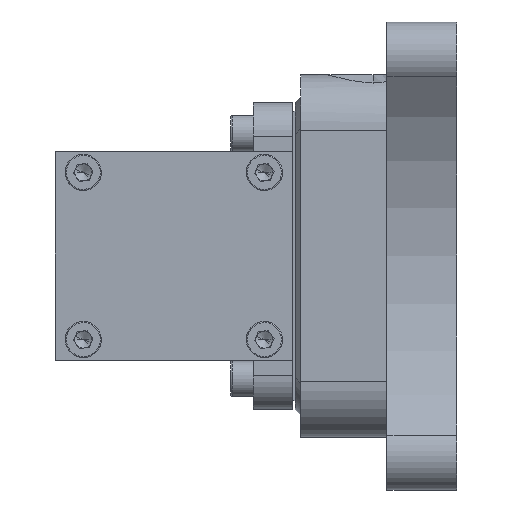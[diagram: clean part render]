
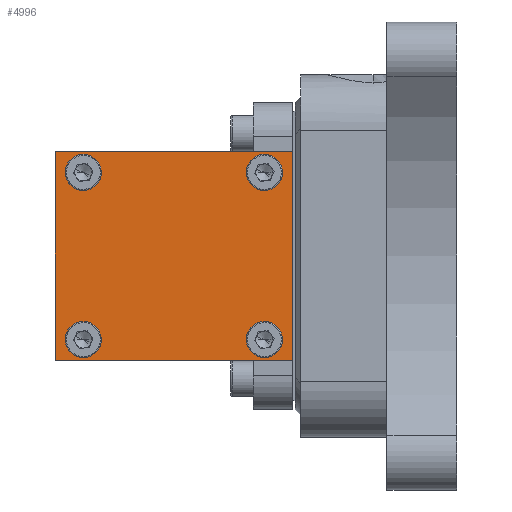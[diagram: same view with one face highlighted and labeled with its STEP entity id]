
A CAD part, left-side view. The second image highlights one B-rep face of the part: STEP entity #4996.
In plain terms, the highlighted planar face has unit normal (-1, 0, 0) as drawn and (1, 0, 0) by its records, which use the part's own axes.
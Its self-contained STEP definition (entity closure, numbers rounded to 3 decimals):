
#169 = EDGE_CURVE ( 'NONE', #5704, #2909, #1802, .T. ) ;
#173 = CARTESIAN_POINT ( 'NONE',  ( 93., 1., -37.5 ) ) ;
#202 = VECTOR ( 'NONE', #6814, 1000. ) ;
#245 = CARTESIAN_POINT ( 'NONE',  ( 93., 76., 34. ) ) ;
#295 = CARTESIAN_POINT ( 'NONE',  ( 93., 86., 37.5 ) ) ;
#340 = AXIS2_PLACEMENT_3D ( 'NONE', #7745, #3066, #6210 ) ;
#385 = VERTEX_POINT ( 'NONE', #245 ) ;
#421 = VERTEX_POINT ( 'NONE', #173 ) ;
#435 = DIRECTION ( 'NONE',  ( 0., 0., -1. ) ) ;
#661 = DIRECTION ( 'NONE',  ( 0., 0., -1. ) ) ;
#725 = AXIS2_PLACEMENT_3D ( 'NONE', #3552, #1104, #8090 ) ;
#906 = DIRECTION ( 'NONE',  ( 1., 0., 0. ) ) ;
#1005 = EDGE_CURVE ( 'NONE', #2152, #6779, #5173, .T. ) ;
#1006 = VERTEX_POINT ( 'NONE', #9913 ) ;
#1030 = ORIENTED_EDGE ( 'NONE', *, *, #4132, .F. ) ;
#1050 = EDGE_LOOP ( 'NONE', ( #9921, #2518, #8245, #6783 ) ) ;
#1104 = DIRECTION ( 'NONE',  ( -1., 0., 0. ) ) ;
#1110 = FACE_BOUND ( 'NONE', #4232, .T. ) ;
#1121 = CARTESIAN_POINT ( 'NONE',  ( 93., 11., 26. ) ) ;
#1181 = ORIENTED_EDGE ( 'NONE', *, *, #10075, .F. ) ;
#1274 = CIRCLE ( 'NONE', #3789, 4. ) ;
#1344 = VERTEX_POINT ( 'NONE', #7257 ) ;
#1491 = VECTOR ( 'NONE', #5074, 1000. ) ;
#1572 = CARTESIAN_POINT ( 'NONE',  ( 93., 11., 34. ) ) ;
#1802 = CIRCLE ( 'NONE', #2686, 4. ) ;
#1851 = DIRECTION ( 'NONE',  ( 0., 0., -1. ) ) ;
#1942 = EDGE_CURVE ( 'NONE', #4474, #421, #3215, .T. ) ;
#2069 = ORIENTED_EDGE ( 'NONE', *, *, #3218, .F. ) ;
#2087 = DIRECTION ( 'NONE',  ( 0., 0., -1. ) ) ;
#2152 = VERTEX_POINT ( 'NONE', #9448 ) ;
#2173 = DIRECTION ( 'NONE',  ( 0., 0., -1. ) ) ;
#2518 = ORIENTED_EDGE ( 'NONE', *, *, #1005, .F. ) ;
#2519 = DIRECTION ( 'NONE',  ( 0., 0., -1. ) ) ;
#2686 = AXIS2_PLACEMENT_3D ( 'NONE', #6159, #8412, #10085 ) ;
#2848 = ORIENTED_EDGE ( 'NONE', *, *, #6568, .F. ) ;
#2909 = VERTEX_POINT ( 'NONE', #1572 ) ;
#2940 = LINE ( 'NONE', #5424, #7946 ) ;
#2981 = EDGE_LOOP ( 'NONE', ( #8383, #4905 ) ) ;
#3066 = DIRECTION ( 'NONE',  ( 1., 0., 0. ) ) ;
#3068 = LINE ( 'NONE', #295, #1491 ) ;
#3159 = CARTESIAN_POINT ( 'NONE',  ( 93., 76., 26. ) ) ;
#3215 = LINE ( 'NONE', #9089, #8465 ) ;
#3218 = EDGE_CURVE ( 'NONE', #9020, #1006, #4913, .T. ) ;
#3279 = CIRCLE ( 'NONE', #8241, 4. ) ;
#3310 = CARTESIAN_POINT ( 'NONE',  ( 93., 11., -26. ) ) ;
#3344 = ORIENTED_EDGE ( 'NONE', *, *, #5296, .F. ) ;
#3427 = FACE_BOUND ( 'NONE', #7618, .T. ) ;
#3470 = EDGE_CURVE ( 'NONE', #7685, #385, #4420, .T. ) ;
#3484 = PLANE ( 'NONE',  #725 ) ;
#3552 = CARTESIAN_POINT ( 'NONE',  ( 93., 86., 37.5 ) ) ;
#3772 = AXIS2_PLACEMENT_3D ( 'NONE', #4218, #4965, #435 ) ;
#3789 = AXIS2_PLACEMENT_3D ( 'NONE', #8718, #906, #6529 ) ;
#3992 = EDGE_CURVE ( 'NONE', #4474, #2152, #3068, .T. ) ;
#3995 = CARTESIAN_POINT ( 'NONE',  ( 93., 76., -30. ) ) ;
#4028 = DIRECTION ( 'NONE',  ( 1., 0., 0. ) ) ;
#4116 = CARTESIAN_POINT ( 'NONE',  ( 93., 76., -30. ) ) ;
#4132 = EDGE_CURVE ( 'NONE', #7266, #1344, #9779, .T. ) ;
#4218 = CARTESIAN_POINT ( 'NONE',  ( 93., 11., -30. ) ) ;
#4225 = CARTESIAN_POINT ( 'NONE',  ( 93., 76., -26. ) ) ;
#4232 = EDGE_LOOP ( 'NONE', ( #3344, #2069 ) ) ;
#4420 = CIRCLE ( 'NONE', #9907, 4. ) ;
#4474 = VERTEX_POINT ( 'NONE', #4574 ) ;
#4560 = CIRCLE ( 'NONE', #4827, 4. ) ;
#4574 = CARTESIAN_POINT ( 'NONE',  ( 93., 1., 37.5 ) ) ;
#4714 = EDGE_CURVE ( 'NONE', #421, #6779, #2940, .T. ) ;
#4748 = FACE_BOUND ( 'NONE', #2981, .T. ) ;
#4827 = AXIS2_PLACEMENT_3D ( 'NONE', #5003, #6584, #2087 ) ;
#4905 = ORIENTED_EDGE ( 'NONE', *, *, #10057, .F. ) ;
#4913 = CIRCLE ( 'NONE', #3772, 4. ) ;
#4965 = DIRECTION ( 'NONE',  ( 1., 0., 0. ) ) ;
#4971 = DIRECTION ( 'NONE',  ( 1., 0., 0. ) ) ;
#4996 = ADVANCED_FACE ( 'NONE', ( #1110, #4748, #5118, #3427, #5370 ), #3484, .F. ) ;
#5003 = CARTESIAN_POINT ( 'NONE',  ( 93., 76., 30. ) ) ;
#5074 = DIRECTION ( 'NONE',  ( 0., 1., 0. ) ) ;
#5118 = FACE_BOUND ( 'NONE', #6153, .T. ) ;
#5164 = CARTESIAN_POINT ( 'NONE',  ( 93., 86., -37.5 ) ) ;
#5173 = LINE ( 'NONE', #10053, #202 ) ;
#5244 = DIRECTION ( 'NONE',  ( 1., 0., 0. ) ) ;
#5296 = EDGE_CURVE ( 'NONE', #1006, #9020, #9282, .T. ) ;
#5370 = FACE_OUTER_BOUND ( 'NONE', #1050, .T. ) ;
#5424 = CARTESIAN_POINT ( 'NONE',  ( 93., 86., -37.5 ) ) ;
#5604 = AXIS2_PLACEMENT_3D ( 'NONE', #3995, #4028, #2519 ) ;
#5704 = VERTEX_POINT ( 'NONE', #1121 ) ;
#6153 = EDGE_LOOP ( 'NONE', ( #2848, #1030 ) ) ;
#6159 = CARTESIAN_POINT ( 'NONE',  ( 93., 11., 30. ) ) ;
#6210 = DIRECTION ( 'NONE',  ( 0., 0., -1. ) ) ;
#6221 = DIRECTION ( 'NONE',  ( 0., 1., 0. ) ) ;
#6529 = DIRECTION ( 'NONE',  ( 0., 0., -1. ) ) ;
#6568 = EDGE_CURVE ( 'NONE', #1344, #7266, #3279, .T. ) ;
#6584 = DIRECTION ( 'NONE',  ( 1., 0., 0. ) ) ;
#6779 = VERTEX_POINT ( 'NONE', #5164 ) ;
#6783 = ORIENTED_EDGE ( 'NONE', *, *, #1942, .T. ) ;
#6814 = DIRECTION ( 'NONE',  ( 0., 0., -1. ) ) ;
#7257 = CARTESIAN_POINT ( 'NONE',  ( 93., 76., -34. ) ) ;
#7266 = VERTEX_POINT ( 'NONE', #4225 ) ;
#7547 = CARTESIAN_POINT ( 'NONE',  ( 93., 76., 30. ) ) ;
#7618 = EDGE_LOOP ( 'NONE', ( #8519, #1181 ) ) ;
#7685 = VERTEX_POINT ( 'NONE', #3159 ) ;
#7745 = CARTESIAN_POINT ( 'NONE',  ( 93., 11., -30. ) ) ;
#7946 = VECTOR ( 'NONE', #6221, 1000. ) ;
#8090 = DIRECTION ( 'NONE',  ( 0., 0., 1. ) ) ;
#8241 = AXIS2_PLACEMENT_3D ( 'NONE', #4116, #4971, #1851 ) ;
#8245 = ORIENTED_EDGE ( 'NONE', *, *, #3992, .F. ) ;
#8383 = ORIENTED_EDGE ( 'NONE', *, *, #169, .F. ) ;
#8412 = DIRECTION ( 'NONE',  ( 1., 0., 0. ) ) ;
#8465 = VECTOR ( 'NONE', #661, 1000. ) ;
#8519 = ORIENTED_EDGE ( 'NONE', *, *, #3470, .F. ) ;
#8718 = CARTESIAN_POINT ( 'NONE',  ( 93., 11., 30. ) ) ;
#9020 = VERTEX_POINT ( 'NONE', #3310 ) ;
#9089 = CARTESIAN_POINT ( 'NONE',  ( 93., 1., 37.5 ) ) ;
#9282 = CIRCLE ( 'NONE', #340, 4. ) ;
#9448 = CARTESIAN_POINT ( 'NONE',  ( 93., 86., 37.5 ) ) ;
#9779 = CIRCLE ( 'NONE', #5604, 4. ) ;
#9907 = AXIS2_PLACEMENT_3D ( 'NONE', #7547, #5244, #2173 ) ;
#9913 = CARTESIAN_POINT ( 'NONE',  ( 93., 11., -34. ) ) ;
#9921 = ORIENTED_EDGE ( 'NONE', *, *, #4714, .T. ) ;
#10053 = CARTESIAN_POINT ( 'NONE',  ( 93., 86., 37.5 ) ) ;
#10057 = EDGE_CURVE ( 'NONE', #2909, #5704, #1274, .T. ) ;
#10075 = EDGE_CURVE ( 'NONE', #385, #7685, #4560, .T. ) ;
#10085 = DIRECTION ( 'NONE',  ( 0., 0., -1. ) ) ;
